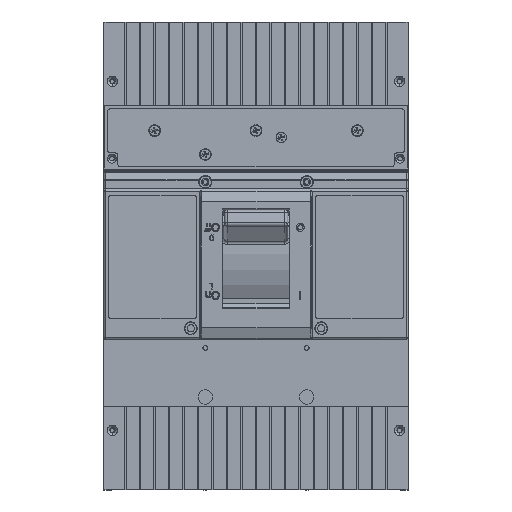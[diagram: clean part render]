
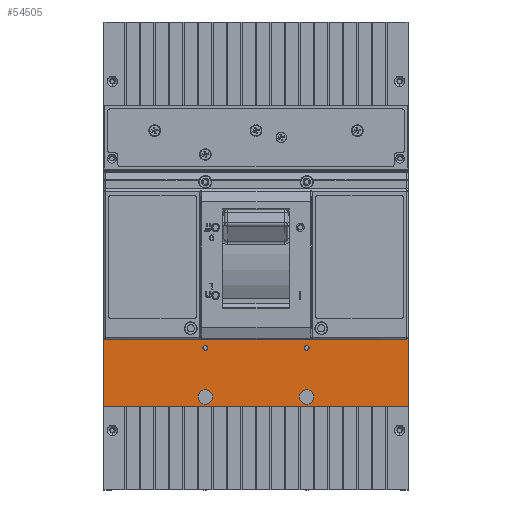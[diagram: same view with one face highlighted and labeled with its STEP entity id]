
A CAD part, top view. The second image highlights one B-rep face of the part: STEP entity #54505.
In plain terms, the highlighted planar face has unit normal (0, 0, 1).
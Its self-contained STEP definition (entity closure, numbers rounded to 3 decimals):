
#237 = VERTEX_POINT ( 'NONE', #33675 ) ;
#315 = CARTESIAN_POINT ( 'NONE',  ( 70.423, -184.466, 115.943 ) ) ;
#1565 = AXIS2_PLACEMENT_3D ( 'NONE', #53119, #117346, #62399 ) ;
#2587 = VERTEX_POINT ( 'NONE', #41411 ) ;
#2648 = VERTEX_POINT ( 'NONE', #79144 ) ;
#2878 = CARTESIAN_POINT ( 'NONE',  ( 137.923, -142.466, 115.943 ) ) ;
#3790 = EDGE_CURVE ( 'NONE', #53538, #111682, #92156, .T. ) ;
#8335 = VERTEX_POINT ( 'NONE', #115970 ) ;
#9544 = DIRECTION ( 'NONE',  ( 0., 1., 0. ) ) ;
#11729 = LINE ( 'NONE', #21900, #57561 ) ;
#12250 = AXIS2_PLACEMENT_3D ( 'NONE', #101880, #46898, #111089 ) ;
#14115 = EDGE_CURVE ( 'NONE', #95852, #8335, #11729, .T. ) ;
#14118 = CARTESIAN_POINT ( 'NONE',  ( -67.077, -142.466, 115.943 ) ) ;
#18013 = VERTEX_POINT ( 'NONE', #107814 ) ;
#18609 = DIRECTION ( 'NONE',  ( 0., 0., 1. ) ) ;
#19092 = VECTOR ( 'NONE', #98056, 1000. ) ;
#20480 = EDGE_CURVE ( 'NONE', #50681, #237, #34905, .T. ) ;
#20670 = VECTOR ( 'NONE', #61548, 1000. ) ;
#21074 = EDGE_CURVE ( 'NONE', #8335, #53538, #23390, .T. ) ;
#21203 = LINE ( 'NONE', #83146, #118705 ) ;
#21900 = CARTESIAN_POINT ( 'NONE',  ( 137.923, -43.466, 115.943 ) ) ;
#23343 = CARTESIAN_POINT ( 'NONE',  ( 70.423, -152.116, 115.943 ) ) ;
#23390 = LINE ( 'NONE', #2878, #118030 ) ;
#24388 = CARTESIAN_POINT ( 'NONE',  ( 140.423, -43.466, 115.943 ) ) ;
#25002 = DIRECTION ( 'NONE',  ( 0., 0., 1. ) ) ;
#26031 = FACE_BOUND ( 'NONE', #50169, .T. ) ;
#27994 = VECTOR ( 'NONE', #55258, 1000. ) ;
#28236 = DIRECTION ( 'NONE',  ( -1., 0., 0. ) ) ;
#28727 = ORIENTED_EDGE ( 'NONE', *, *, #113899, .F. ) ;
#28882 = AXIS2_PLACEMENT_3D ( 'NONE', #79905, #25002, #89028 ) ;
#30589 = CARTESIAN_POINT ( 'NONE',  ( 70.423, -150.466, 115.943 ) ) ;
#30824 = CARTESIAN_POINT ( 'NONE',  ( 140.423, -215.466, 115.943 ) ) ;
#31925 = VERTEX_POINT ( 'NONE', #57979 ) ;
#33675 = CARTESIAN_POINT ( 'NONE',  ( 0.423, -179.466, 115.943 ) ) ;
#33878 = CARTESIAN_POINT ( 'NONE',  ( 137.923, -142.466, 115.943 ) ) ;
#34905 = CIRCLE ( 'NONE', #91892, 5. ) ;
#37343 = ORIENTED_EDGE ( 'NONE', *, *, #95925, .F. ) ;
#38331 = DIRECTION ( 'NONE',  ( 0., 0., 1. ) ) ;
#39430 = EDGE_LOOP ( 'NONE', ( #55281, #94332, #109486, #115382, #49066, #115079, #76006, #42863 ) ) ;
#39774 = DIRECTION ( 'NONE',  ( 0., 1., 0. ) ) ;
#39849 = EDGE_CURVE ( 'NONE', #48298, #111758, #41769, .T. ) ;
#40003 = DIRECTION ( 'NONE',  ( 0., -1., 0. ) ) ;
#41411 = CARTESIAN_POINT ( 'NONE',  ( 70.423, -189.466, 115.943 ) ) ;
#41769 = CIRCLE ( 'NONE', #67110, 1.65 ) ;
#42863 = ORIENTED_EDGE ( 'NONE', *, *, #21074, .T. ) ;
#46898 = DIRECTION ( 'NONE',  ( 0., 0., 1. ) ) ;
#47453 = FACE_BOUND ( 'NONE', #59985, .T. ) ;
#48298 = VERTEX_POINT ( 'NONE', #23343 ) ;
#49066 = ORIENTED_EDGE ( 'NONE', *, *, #84299, .F. ) ;
#49971 = VERTEX_POINT ( 'NONE', #95441 ) ;
#50169 = EDGE_LOOP ( 'NONE', ( #114893, #37343 ) ) ;
#50369 = EDGE_CURVE ( 'NONE', #111682, #104269, #101168, .T. ) ;
#50681 = VERTEX_POINT ( 'NONE', #96909 ) ;
#51310 = LINE ( 'NONE', #106857, #72941 ) ;
#53119 = CARTESIAN_POINT ( 'NONE',  ( 0.423, -150.466, 115.943 ) ) ;
#53538 = VERTEX_POINT ( 'NONE', #68815 ) ;
#53816 = EDGE_CURVE ( 'NONE', #237, #50681, #76452, .T. ) ;
#54233 = CARTESIAN_POINT ( 'NONE',  ( 0.423, -184.466, 115.943 ) ) ;
#54505 = ADVANCED_FACE ( 'NONE', ( #26031, #47453, #117822, #93376, #69068 ), #113004, .F. ) ;
#55258 = DIRECTION ( 'NONE',  ( 0., 1., 0. ) ) ;
#55281 = ORIENTED_EDGE ( 'NONE', *, *, #3790, .T. ) ;
#55547 = ORIENTED_EDGE ( 'NONE', *, *, #20480, .F. ) ;
#55986 = EDGE_CURVE ( 'NONE', #18013, #49971, #108810, .T. ) ;
#57561 = VECTOR ( 'NONE', #76825, 1000. ) ;
#57979 = CARTESIAN_POINT ( 'NONE',  ( 140.423, -190.966, 115.943 ) ) ;
#59985 = EDGE_LOOP ( 'NONE', ( #28727, #118353 ) ) ;
#61191 = CARTESIAN_POINT ( 'NONE',  ( 0.423, -152.116, 115.943 ) ) ;
#61548 = DIRECTION ( 'NONE',  ( -1., 0., 0. ) ) ;
#61950 = CARTESIAN_POINT ( 'NONE',  ( -67.077, -43.466, 115.943 ) ) ;
#62343 = EDGE_LOOP ( 'NONE', ( #72164, #80598 ) ) ;
#62399 = DIRECTION ( 'NONE',  ( 0., 1., 0. ) ) ;
#62946 = VECTOR ( 'NONE', #111280, 1000. ) ;
#63531 = DIRECTION ( 'NONE',  ( 0., 1., 0. ) ) ;
#64394 = DIRECTION ( 'NONE',  ( 0., 0., 1. ) ) ;
#66937 = DIRECTION ( 'NONE',  ( 0., -1., 0. ) ) ;
#67110 = AXIS2_PLACEMENT_3D ( 'NONE', #30589, #94717, #39774 ) ;
#68722 = CIRCLE ( 'NONE', #69135, 5. ) ;
#68815 = CARTESIAN_POINT ( 'NONE',  ( 137.923, -142.466, 115.943 ) ) ;
#69068 = FACE_OUTER_BOUND ( 'NONE', #39430, .T. ) ;
#69135 = AXIS2_PLACEMENT_3D ( 'NONE', #315, #64394, #9544 ) ;
#69418 = LINE ( 'NONE', #61950, #20670 ) ;
#70043 = CIRCLE ( 'NONE', #85726, 1.65 ) ;
#70686 = AXIS2_PLACEMENT_3D ( 'NONE', #54233, #118430, #63531 ) ;
#72164 = ORIENTED_EDGE ( 'NONE', *, *, #96072, .F. ) ;
#72941 = VECTOR ( 'NONE', #116061, 1000. ) ;
#73561 = CARTESIAN_POINT ( 'NONE',  ( 0.423, -184.466, 115.943 ) ) ;
#76006 = ORIENTED_EDGE ( 'NONE', *, *, #14115, .T. ) ;
#76452 = CIRCLE ( 'NONE', #70686, 5. ) ;
#76825 = DIRECTION ( 'NONE',  ( -1., 0., 0. ) ) ;
#79144 = CARTESIAN_POINT ( 'NONE',  ( 70.423, -179.466, 115.943 ) ) ;
#79435 = CARTESIAN_POINT ( 'NONE',  ( 70.423, -148.816, 115.943 ) ) ;
#79905 = CARTESIAN_POINT ( 'NONE',  ( 70.423, -184.466, 115.943 ) ) ;
#80598 = ORIENTED_EDGE ( 'NONE', *, *, #92643, .F. ) ;
#80836 = CARTESIAN_POINT ( 'NONE',  ( -67.077, -43.466, 115.943 ) ) ;
#82688 = DIRECTION ( 'NONE',  ( 0., 1., 0. ) ) ;
#83146 = CARTESIAN_POINT ( 'NONE',  ( -69.577, -190.966, 115.943 ) ) ;
#84299 = EDGE_CURVE ( 'NONE', #31925, #49971, #21203, .T. ) ;
#84420 = CARTESIAN_POINT ( 'NONE',  ( 0.423, -148.816, 115.943 ) ) ;
#85726 = AXIS2_PLACEMENT_3D ( 'NONE', #93254, #38331, #102517 ) ;
#89028 = DIRECTION ( 'NONE',  ( 0., 1., 0. ) ) ;
#89333 = EDGE_CURVE ( 'NONE', #104269, #18013, #69418, .T. ) ;
#91484 = ORIENTED_EDGE ( 'NONE', *, *, #53816, .F. ) ;
#91892 = AXIS2_PLACEMENT_3D ( 'NONE', #73561, #18609, #82688 ) ;
#92114 = CARTESIAN_POINT ( 'NONE',  ( -67.077, -84.966, 115.943 ) ) ;
#92156 = LINE ( 'NONE', #33878, #19092 ) ;
#92643 = EDGE_CURVE ( 'NONE', #2587, #2648, #98859, .T. ) ;
#93254 = CARTESIAN_POINT ( 'NONE',  ( 0.423, -150.466, 115.943 ) ) ;
#93340 = EDGE_CURVE ( 'NONE', #115110, #109864, #70043, .T. ) ;
#93376 = FACE_BOUND ( 'NONE', #62343, .T. ) ;
#94332 = ORIENTED_EDGE ( 'NONE', *, *, #50369, .T. ) ;
#94717 = DIRECTION ( 'NONE',  ( 0., 0., 1. ) ) ;
#94959 = DIRECTION ( 'NONE',  ( 0., 0., -1. ) ) ;
#95441 = CARTESIAN_POINT ( 'NONE',  ( -69.577, -190.966, 115.943 ) ) ;
#95852 = VERTEX_POINT ( 'NONE', #24388 ) ;
#95925 = EDGE_CURVE ( 'NONE', #109864, #115110, #101688, .T. ) ;
#96072 = EDGE_CURVE ( 'NONE', #2648, #2587, #68722, .T. ) ;
#96909 = CARTESIAN_POINT ( 'NONE',  ( 0.423, -189.466, 115.943 ) ) ;
#98056 = DIRECTION ( 'NONE',  ( -1., 0., 0. ) ) ;
#98859 = CIRCLE ( 'NONE', #28882, 5. ) ;
#101168 = LINE ( 'NONE', #92114, #27994 ) ;
#101688 = CIRCLE ( 'NONE', #1565, 1.65 ) ;
#101880 = CARTESIAN_POINT ( 'NONE',  ( 70.423, -150.466, 115.943 ) ) ;
#102084 = CARTESIAN_POINT ( 'NONE',  ( -69.577, -215.466, 115.943 ) ) ;
#102517 = DIRECTION ( 'NONE',  ( 0., 1., 0. ) ) ;
#102921 = AXIS2_PLACEMENT_3D ( 'NONE', #30824, #94959, #40003 ) ;
#104269 = VERTEX_POINT ( 'NONE', #80836 ) ;
#106857 = CARTESIAN_POINT ( 'NONE',  ( 140.423, -43.466, 115.943 ) ) ;
#107814 = CARTESIAN_POINT ( 'NONE',  ( -69.577, -43.466, 115.943 ) ) ;
#108810 = LINE ( 'NONE', #102084, #62946 ) ;
#109486 = ORIENTED_EDGE ( 'NONE', *, *, #89333, .T. ) ;
#109864 = VERTEX_POINT ( 'NONE', #61191 ) ;
#110366 = EDGE_LOOP ( 'NONE', ( #91484, #55547 ) ) ;
#111089 = DIRECTION ( 'NONE',  ( 0., 1., 0. ) ) ;
#111280 = DIRECTION ( 'NONE',  ( 0., -1., 0. ) ) ;
#111682 = VERTEX_POINT ( 'NONE', #14118 ) ;
#111758 = VERTEX_POINT ( 'NONE', #79435 ) ;
#112627 = EDGE_CURVE ( 'NONE', #31925, #95852, #51310, .T. ) ;
#113004 = PLANE ( 'NONE',  #102921 ) ;
#113899 = EDGE_CURVE ( 'NONE', #111758, #48298, #115347, .T. ) ;
#114893 = ORIENTED_EDGE ( 'NONE', *, *, #93340, .F. ) ;
#115079 = ORIENTED_EDGE ( 'NONE', *, *, #112627, .T. ) ;
#115110 = VERTEX_POINT ( 'NONE', #84420 ) ;
#115347 = CIRCLE ( 'NONE', #12250, 1.65 ) ;
#115382 = ORIENTED_EDGE ( 'NONE', *, *, #55986, .T. ) ;
#115970 = CARTESIAN_POINT ( 'NONE',  ( 137.923, -43.466, 115.943 ) ) ;
#116061 = DIRECTION ( 'NONE',  ( 0., 1., 0. ) ) ;
#117346 = DIRECTION ( 'NONE',  ( 0., 0., 1. ) ) ;
#117822 = FACE_BOUND ( 'NONE', #110366, .T. ) ;
#118030 = VECTOR ( 'NONE', #66937, 1000. ) ;
#118353 = ORIENTED_EDGE ( 'NONE', *, *, #39849, .F. ) ;
#118430 = DIRECTION ( 'NONE',  ( 0., 0., 1. ) ) ;
#118705 = VECTOR ( 'NONE', #28236, 1000. ) ;
